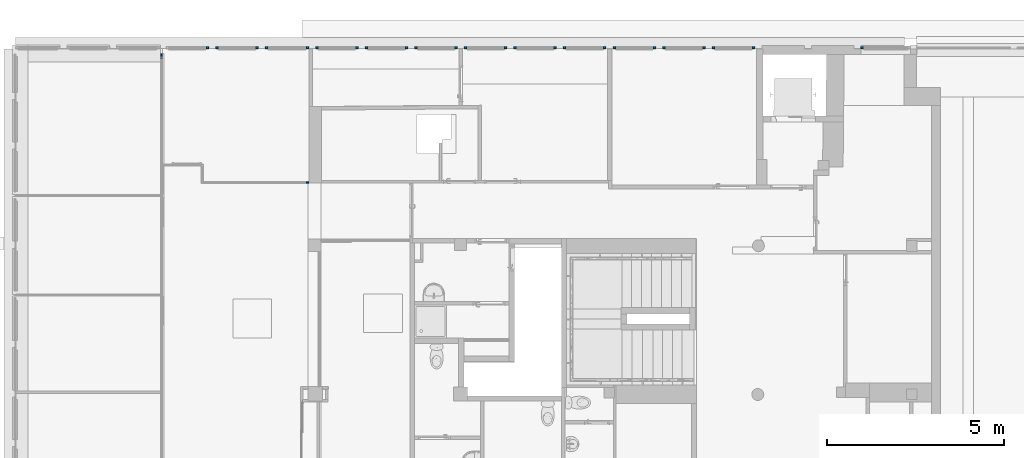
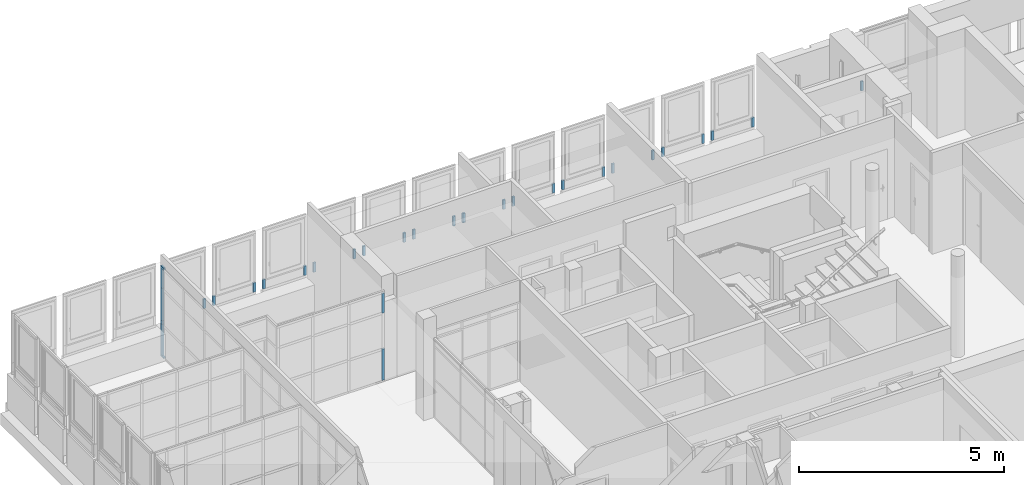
# One storey, part 23 of 97: 32 members, 15 elements without a shape of their own.
"""IFC4 building model written with IfcOpenShell, lengths in metres."""

from ifc_helpers import new_model, entity, si_unit, converted_unit, derived_unit, direction, frame, origin, place, context, subcontext, project, spatial, indexed_curve, outline, extrude, source, transform, mapped, material, type_object, type_shapes, element, aggregate, save


model = new_model("IFC4")

# Units and contexts
model_context = context("Model", 3, precision=1e-05, world=origin(), true_north=direction((6.12303176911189e-17, 1.0)))
body_context = subcontext(model_context, "Body", "Model", "MODEL_VIEW")
ifc_project = project(units=[si_unit("LENGTHUNIT", "METRE"), si_unit("AREAUNIT", "SQUARE_METRE"), si_unit("VOLUMEUNIT", "CUBIC_METRE"), converted_unit("PLANEANGLEUNIT", "DEGREE", entity("IfcRatioMeasure", 0.0174532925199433), si_unit("PLANEANGLEUNIT", "RADIAN"), dimensions=[0, 0, 0, 0, 0, 0, 0]), si_unit("MASSUNIT", "GRAM", prefix="KILO"), derived_unit("MASSDENSITYUNIT", [(si_unit("MASSUNIT", "GRAM", prefix="KILO"), 1), (si_unit("LENGTHUNIT", "METRE"), -3)]), derived_unit("MOMENTOFINERTIAUNIT", [(si_unit("LENGTHUNIT", "METRE"), 4)]), si_unit("TIMEUNIT", "SECOND"), si_unit("FREQUENCYUNIT", "HERTZ"), si_unit("THERMODYNAMICTEMPERATUREUNIT", "DEGREE_CELSIUS"), derived_unit("THERMALTRANSMITTANCEUNIT", [(si_unit("MASSUNIT", "GRAM", prefix="KILO"), 1), (si_unit("THERMODYNAMICTEMPERATUREUNIT", "KELVIN"), -1), (si_unit("TIMEUNIT", "SECOND"), -3)]), derived_unit("VOLUMETRICFLOWRATEUNIT", [(si_unit("LENGTHUNIT", "METRE"), 3), (si_unit("TIMEUNIT", "SECOND"), -1)]), si_unit("ELECTRICCURRENTUNIT", "AMPERE"), si_unit("ELECTRICVOLTAGEUNIT", "VOLT"), si_unit("POWERUNIT", "WATT"), si_unit("FORCEUNIT", "NEWTON", prefix="KILO"), si_unit("ILLUMINANCEUNIT", "LUX"), si_unit("LUMINOUSFLUXUNIT", "LUMEN"), si_unit("LUMINOUSINTENSITYUNIT", "CANDELA"), derived_unit("USERDEFINED", [(si_unit("MASSUNIT", "GRAM", prefix="KILO"), -1), (si_unit("LENGTHUNIT", "METRE"), -2), (si_unit("TIMEUNIT", "SECOND"), 3), (si_unit("LUMINOUSFLUXUNIT", "LUMEN"), 1)]), derived_unit("LINEARVELOCITYUNIT", [(si_unit("LENGTHUNIT", "METRE"), 1), (si_unit("TIMEUNIT", "SECOND"), -1)]), si_unit("PRESSUREUNIT", "PASCAL"), derived_unit("USERDEFINED", [(si_unit("LENGTHUNIT", "METRE"), -2), (si_unit("MASSUNIT", "GRAM", prefix="KILO"), 1), (si_unit("TIMEUNIT", "SECOND"), -2)]), derived_unit("LINEARFORCEUNIT", [(si_unit("MASSUNIT", "GRAM", prefix="KILO"), 1), (si_unit("LENGTHUNIT", "METRE"), 1), (si_unit("TIMEUNIT", "SECOND"), -2), (si_unit("LENGTHUNIT", "METRE"), -1)]), derived_unit("PLANARFORCEUNIT", [(si_unit("MASSUNIT", "GRAM", prefix="KILO"), 1), (si_unit("LENGTHUNIT", "METRE"), 1), (si_unit("TIMEUNIT", "SECOND"), -2), (si_unit("LENGTHUNIT", "METRE"), -2)])], contexts=[model_context])

# Site, building, storey
site_placement = place(None, origin())
site = spatial("IfcSite", under=ifc_project, at=site_placement, Name="Default", CompositionType="ELEMENT")
building_placement = place(site_placement, origin())
building = spatial("IfcBuilding", under=site, at=building_placement, Name="HOTEL CONSULAIRE BOULOGNE SUR MER", CompositionType="ELEMENT")
storey_placement = place(building_placement, frame((0.0, 0.0, 3.62152697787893)))
storey = spatial("IfcBuildingStorey", under=building, at=storey_placement, Name="Niveau 1", CompositionType="ELEMENT", Elevation=3.62152697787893)

# Curtain wall, member
curtain_wall_type = type_object("IfcCurtainWallType", Name="Mur-rideau:Simple panneau", PredefinedType="NOTDEFINED")
curtain_wall_1_placement = place(storey_placement, frame((0.0, 0.0, -3.62152697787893)))
curtain_wall_1 = element("IfcCurtainWall", 1, at=curtain_wall_1_placement, inside=storey, type_object=curtain_wall_type, Name="Mur-rideau:Simple panneau", ObjectType="Mur-rideau:Simple panneau", PredefinedType="NOTDEFINED")
ifc_material_1 = material(Name="PVC - Blanc", Category="Plastique")
member_type_1 = type_object("IfcMemberType", Name="Meneau rectangulaire:50 x 35", PredefinedType="MULLION", material=ifc_material_1)
shared_shape_1 = source(origin(), body_context, "Body", "SweptSolid", [
    extrude(outline(indexed_curve([(-0.025, -0.035), (0.025, -0.035), (0.025, 0.035), (-0.025, 0.035), (-0.025, -0.035)], self_intersect=False)), frame((-0.035, -0.025, -0.278), z_axis=(0.0, 0.0, 1.0), x_axis=(0.0, -1.0, 0.0)), (0.0, 0.0, 1.0), 0.278),
])
type_shapes(member_type_1, [shared_shape_1])
member_1_placement = place(storey_placement, frame((-8.34141997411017, -10.0746323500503, 0.861612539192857), z_axis=(0.0, 0.0, -1.0), x_axis=(1.0, 0.0, 0.0)))
member_1 = element("IfcMember", 2, at=member_1_placement, type_object=member_type_1, material=ifc_material_1, Name="Meneau rectangulaire:50 x 35", ObjectType="Meneau rectangulaire:50 x 35", PredefinedType="MULLION", context=body_context, shape_type="MappedRepresentation", body=[
    mapped(shared_shape_1, transform((0.0, 0.0, 0.0), scale=1.0)),
])
aggregate(curtain_wall_1, [member_1])

curtain_wall_2_placement = place(storey_placement, frame((0.0, 0.0, -3.62152697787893)))
curtain_wall_2 = element("IfcCurtainWall", 3, at=curtain_wall_2_placement, inside=storey, type_object=curtain_wall_type, Name="Mur-rideau:Simple panneau", ObjectType="Mur-rideau:Simple panneau", PredefinedType="NOTDEFINED")
member_2_placement = place(storey_placement, frame((-6.94141997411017, -10.0746323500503, 0.861612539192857), z_axis=(0.0, 0.0, -1.0), x_axis=(1.0, 0.0, 0.0)))
member_2 = element("IfcMember", 4, at=member_2_placement, type_object=member_type_1, material=ifc_material_1, Name="Meneau rectangulaire:50 x 35", ObjectType="Meneau rectangulaire:50 x 35", PredefinedType="MULLION", context=body_context, shape_type="MappedRepresentation", body=[
    mapped(shared_shape_1, transform((0.0, 0.0, 0.0), scale=1.0)),
])

curtain_wall_3_placement = place(storey_placement, frame((0.0, 0.0, -3.62152697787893)))
curtain_wall_3 = element("IfcCurtainWall", 5, at=curtain_wall_3_placement, inside=storey, type_object=curtain_wall_type, Name="Mur-rideau:Simple panneau", ObjectType="Mur-rideau:Simple panneau", PredefinedType="NOTDEFINED")
member_3_placement = place(storey_placement, frame((-5.51977317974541, -10.0746323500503, 0.861612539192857), z_axis=(0.0, 0.0, -1.0), x_axis=(1.0, 0.0, 0.0)))
member_3 = element("IfcMember", 6, at=member_3_placement, type_object=member_type_1, material=ifc_material_1, Name="Meneau rectangulaire:50 x 35", ObjectType="Meneau rectangulaire:50 x 35", PredefinedType="MULLION", context=body_context, shape_type="MappedRepresentation", body=[
    mapped(shared_shape_1, transform((0.0, 0.0, 0.0), scale=1.0)),
])

curtain_wall_4_placement = place(storey_placement, frame((0.0, 0.0, -3.62152697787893)))
curtain_wall_4 = element("IfcCurtainWall", 7, at=curtain_wall_4_placement, inside=storey, type_object=curtain_wall_type, Name="Mur-rideau:Simple panneau", ObjectType="Mur-rideau:Simple panneau", PredefinedType="NOTDEFINED")
member_4_placement = place(storey_placement, frame((-4.11977317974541, -10.0746323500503, 0.861612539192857), z_axis=(0.0, 0.0, -1.0), x_axis=(1.0, 0.0, 0.0)))
member_4 = element("IfcMember", 8, at=member_4_placement, type_object=member_type_1, material=ifc_material_1, Name="Meneau rectangulaire:50 x 35", ObjectType="Meneau rectangulaire:50 x 35", PredefinedType="MULLION", context=body_context, shape_type="MappedRepresentation", body=[
    mapped(shared_shape_1, transform((0.0, 0.0, 0.0), scale=1.0)),
])

curtain_wall_5_placement = place(storey_placement, frame((0.0, 0.0, -3.62152697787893)))
curtain_wall_5 = element("IfcCurtainWall", 9, at=curtain_wall_5_placement, inside=storey, type_object=curtain_wall_type, Name="Mur-rideau:Simple panneau", ObjectType="Mur-rideau:Simple panneau", PredefinedType="NOTDEFINED")
member_5_placement = place(storey_placement, frame((-2.71977317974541, -10.0746323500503, 0.861612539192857), z_axis=(0.0, 0.0, -1.0), x_axis=(1.0, 0.0, 0.0)))
member_5 = element("IfcMember", 10, at=member_5_placement, type_object=member_type_1, material=ifc_material_1, Name="Meneau rectangulaire:50 x 35", ObjectType="Meneau rectangulaire:50 x 35", PredefinedType="MULLION", context=body_context, shape_type="MappedRepresentation", body=[
    mapped(shared_shape_1, transform((0.0, 0.0, 0.0), scale=1.0)),
])

curtain_wall_6_placement = place(storey_placement, frame((0.0, 0.0, -3.62152697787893)))
curtain_wall_6 = element("IfcCurtainWall", 11, at=curtain_wall_6_placement, inside=storey, type_object=curtain_wall_type, Name="Mur-rideau:Simple panneau", ObjectType="Mur-rideau:Simple panneau", PredefinedType="NOTDEFINED")
member_6_placement = place(storey_placement, frame((-1.31977317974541, -10.0746323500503, 0.861612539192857), z_axis=(0.0, 0.0, -1.0), x_axis=(1.0, 0.0, 0.0)))
member_6 = element("IfcMember", 12, at=member_6_placement, type_object=member_type_1, material=ifc_material_1, Name="Meneau rectangulaire:50 x 35", ObjectType="Meneau rectangulaire:50 x 35", PredefinedType="MULLION", context=body_context, shape_type="MappedRepresentation", body=[
    mapped(shared_shape_1, transform((0.0, 0.0, 0.0), scale=1.0)),
])

curtain_wall_7_placement = place(storey_placement, frame((0.0, 0.0, -3.62152697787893)))
curtain_wall_7 = element("IfcCurtainWall", 13, at=curtain_wall_7_placement, inside=storey, type_object=curtain_wall_type, Name="Mur-rideau:Simple panneau", ObjectType="Mur-rideau:Simple panneau", PredefinedType="NOTDEFINED")
member_7_placement = place(storey_placement, frame((0.0775783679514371, -10.0746323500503, 0.861612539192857), z_axis=(0.0, 0.0, -1.0), x_axis=(1.0, 0.0, 0.0)))
member_7 = element("IfcMember", 14, at=member_7_placement, type_object=member_type_1, material=ifc_material_1, Name="Meneau rectangulaire:50 x 35", ObjectType="Meneau rectangulaire:50 x 35", PredefinedType="MULLION", context=body_context, shape_type="MappedRepresentation", body=[
    mapped(shared_shape_1, transform((0.0, 0.0, 0.0), scale=1.0)),
])

curtain_wall_8_placement = place(storey_placement, frame((0.0, 0.0, -3.62152697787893)))
curtain_wall_8 = element("IfcCurtainWall", 15, at=curtain_wall_8_placement, inside=storey, type_object=curtain_wall_type, Name="Mur-rideau:Simple panneau", ObjectType="Mur-rideau:Simple panneau", PredefinedType="NOTDEFINED")
member_8_placement = place(storey_placement, frame((1.47757836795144, -10.0746323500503, 0.861612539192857), z_axis=(0.0, 0.0, -1.0), x_axis=(1.0, 0.0, 0.0)))
member_8 = element("IfcMember", 16, at=member_8_placement, type_object=member_type_1, material=ifc_material_1, Name="Meneau rectangulaire:50 x 35", ObjectType="Meneau rectangulaire:50 x 35", PredefinedType="MULLION", context=body_context, shape_type="MappedRepresentation", body=[
    mapped(shared_shape_1, transform((0.0, 0.0, 0.0), scale=1.0)),
])

curtain_wall_9_placement = place(storey_placement, frame((0.0, 0.0, -3.62152697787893)))
curtain_wall_9 = element("IfcCurtainWall", 17, at=curtain_wall_9_placement, inside=storey, type_object=curtain_wall_type, Name="Mur-rideau:Simple panneau", ObjectType="Mur-rideau:Simple panneau", PredefinedType="NOTDEFINED")
member_9_placement = place(storey_placement, frame((2.87757836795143, -10.0746323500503, 0.861612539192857), z_axis=(0.0, 0.0, -1.0), x_axis=(1.0, 0.0, 0.0)))
member_9 = element("IfcMember", 18, at=member_9_placement, type_object=member_type_1, material=ifc_material_1, Name="Meneau rectangulaire:50 x 35", ObjectType="Meneau rectangulaire:50 x 35", PredefinedType="MULLION", context=body_context, shape_type="MappedRepresentation", body=[
    mapped(shared_shape_1, transform((0.0, 0.0, 0.0), scale=1.0)),
])

curtain_wall_10_placement = place(storey_placement, frame((0.0, 0.0, -3.62152697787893)))
curtain_wall_10 = element("IfcCurtainWall", 19, at=curtain_wall_10_placement, inside=storey, type_object=curtain_wall_type, Name="Mur-rideau:Simple panneau", ObjectType="Mur-rideau:Simple panneau", PredefinedType="NOTDEFINED")
member_10_placement = place(storey_placement, frame((4.27857836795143, -10.0746323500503, 0.861612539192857), z_axis=(0.0, 0.0, -1.0), x_axis=(1.0, 0.0, 0.0)))
member_10 = element("IfcMember", 20, at=member_10_placement, type_object=member_type_1, material=ifc_material_1, Name="Meneau rectangulaire:50 x 35", ObjectType="Meneau rectangulaire:50 x 35", PredefinedType="MULLION", context=body_context, shape_type="MappedRepresentation", body=[
    mapped(shared_shape_1, transform((0.0, 0.0, 0.0), scale=1.0)),
])

curtain_wall_11_placement = place(storey_placement, frame((0.0, 0.0, -3.62152697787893)))
curtain_wall_11 = element("IfcCurtainWall", 21, at=curtain_wall_11_placement, inside=storey, type_object=curtain_wall_type, Name="Mur-rideau:Simple panneau", ObjectType="Mur-rideau:Simple panneau", PredefinedType="NOTDEFINED")
member_11_placement = place(storey_placement, frame((5.67757836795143, -10.0746323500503, 0.861612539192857), z_axis=(0.0, 0.0, -1.0), x_axis=(1.0, 0.0, 0.0)))
member_11 = element("IfcMember", 22, at=member_11_placement, type_object=member_type_1, material=ifc_material_1, Name="Meneau rectangulaire:50 x 35", ObjectType="Meneau rectangulaire:50 x 35", PredefinedType="MULLION", context=body_context, shape_type="MappedRepresentation", body=[
    mapped(shared_shape_1, transform((0.0, 0.0, 0.0), scale=1.0)),
])

curtain_wall_12_placement = place(storey_placement, frame((0.0, 0.0, -3.62152697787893)))
curtain_wall_12 = element("IfcCurtainWall", 23, at=curtain_wall_12_placement, inside=storey, type_object=curtain_wall_type, Name="Mur-rideau:Simple panneau", ObjectType="Mur-rideau:Simple panneau", PredefinedType="NOTDEFINED")
member_12_placement = place(storey_placement, frame((7.07757836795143, -10.0746323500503, 0.861612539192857), z_axis=(0.0, 0.0, -1.0), x_axis=(1.0, 0.0, 0.0)))
member_12 = element("IfcMember", 24, at=member_12_placement, type_object=member_type_1, material=ifc_material_1, Name="Meneau rectangulaire:50 x 35", ObjectType="Meneau rectangulaire:50 x 35", PredefinedType="MULLION", context=body_context, shape_type="MappedRepresentation", body=[
    mapped(shared_shape_1, transform((0.0, 0.0, 0.0), scale=1.0)),
])

# Member
member_type_2 = type_object("IfcMemberType", Name="Meneau rectangulaire:50 x 35", PredefinedType="MULLION", material=ifc_material_1)
shared_shape_2 = source(origin(), body_context, "Body", "SweptSolid", [
    extrude(outline(indexed_curve([(-0.025, -0.035), (0.025, -0.035), (0.025, 0.035), (-0.025, 0.035), (-0.025, -0.035)], self_intersect=False)), frame((-0.035, -0.025, -0.278), z_axis=(0.0, 0.0, 1.0), x_axis=(0.0, -1.0, 0.0)), (0.0, 0.0, 1.0), 0.278),
])
type_shapes(member_type_2, [shared_shape_2])
member_13_placement = place(storey_placement, frame((-8.14141997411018, -10.0746323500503, 1.13961253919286), z_axis=(0.0, 0.0, 1.0), x_axis=(-1.0, 0.0, 0.0)))
member_13 = element("IfcMember", 25, at=member_13_placement, type_object=member_type_2, material=ifc_material_1, Name="Meneau rectangulaire:50 x 35", ObjectType="Meneau rectangulaire:50 x 35", PredefinedType="MULLION", context=body_context, shape_type="MappedRepresentation", body=[
    mapped(shared_shape_2, transform((0.0, 0.0, 0.0), scale=1.0)),
])

aggregate(curtain_wall_2, [member_2, member_13])

member_14_placement = place(storey_placement, frame((-6.74141997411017, -10.0746323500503, 1.13961253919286), z_axis=(0.0, 0.0, 1.0), x_axis=(-1.0, 0.0, 0.0)))
member_14 = element("IfcMember", 26, at=member_14_placement, type_object=member_type_2, material=ifc_material_1, Name="Meneau rectangulaire:50 x 35", ObjectType="Meneau rectangulaire:50 x 35", PredefinedType="MULLION", context=body_context, shape_type="MappedRepresentation", body=[
    mapped(shared_shape_2, transform((0.0, 0.0, 0.0), scale=1.0)),
])

aggregate(curtain_wall_3, [member_3, member_14])

member_15_placement = place(storey_placement, frame((-5.31977317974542, -10.0746323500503, 1.13961253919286), z_axis=(0.0, 0.0, 1.0), x_axis=(-1.0, 0.0, 0.0)))
member_15 = element("IfcMember", 27, at=member_15_placement, type_object=member_type_2, material=ifc_material_1, Name="Meneau rectangulaire:50 x 35", ObjectType="Meneau rectangulaire:50 x 35", PredefinedType="MULLION", context=body_context, shape_type="MappedRepresentation", body=[
    mapped(shared_shape_2, transform((0.0, 0.0, 0.0), scale=1.0)),
])

aggregate(curtain_wall_4, [member_4, member_15])

member_16_placement = place(storey_placement, frame((-3.91977317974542, -10.0746323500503, 1.13961253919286), z_axis=(0.0, 0.0, 1.0), x_axis=(-1.0, 0.0, 0.0)))
member_16 = element("IfcMember", 28, at=member_16_placement, type_object=member_type_2, material=ifc_material_1, Name="Meneau rectangulaire:50 x 35", ObjectType="Meneau rectangulaire:50 x 35", PredefinedType="MULLION", context=body_context, shape_type="MappedRepresentation", body=[
    mapped(shared_shape_2, transform((0.0, 0.0, 0.0), scale=1.0)),
])

aggregate(curtain_wall_5, [member_5, member_16])

member_17_placement = place(storey_placement, frame((-2.51977317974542, -10.0746323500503, 1.13961253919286), z_axis=(0.0, 0.0, 1.0), x_axis=(-1.0, 0.0, 0.0)))
member_17 = element("IfcMember", 29, at=member_17_placement, type_object=member_type_2, material=ifc_material_1, Name="Meneau rectangulaire:50 x 35", ObjectType="Meneau rectangulaire:50 x 35", PredefinedType="MULLION", context=body_context, shape_type="MappedRepresentation", body=[
    mapped(shared_shape_2, transform((0.0, 0.0, 0.0), scale=1.0)),
])

aggregate(curtain_wall_6, [member_6, member_17])

member_18_placement = place(storey_placement, frame((-1.11977317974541, -10.0746323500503, 1.13961253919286), z_axis=(0.0, 0.0, 1.0), x_axis=(-1.0, 0.0, 0.0)))
member_18 = element("IfcMember", 30, at=member_18_placement, type_object=member_type_2, material=ifc_material_1, Name="Meneau rectangulaire:50 x 35", ObjectType="Meneau rectangulaire:50 x 35", PredefinedType="MULLION", context=body_context, shape_type="MappedRepresentation", body=[
    mapped(shared_shape_2, transform((0.0, 0.0, 0.0), scale=1.0)),
])

aggregate(curtain_wall_7, [member_7, member_18])

member_19_placement = place(storey_placement, frame((0.277578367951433, -10.0746323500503, 1.13961253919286), z_axis=(0.0, 0.0, 1.0), x_axis=(-1.0, 0.0, 0.0)))
member_19 = element("IfcMember", 31, at=member_19_placement, type_object=member_type_2, material=ifc_material_1, Name="Meneau rectangulaire:50 x 35", ObjectType="Meneau rectangulaire:50 x 35", PredefinedType="MULLION", context=body_context, shape_type="MappedRepresentation", body=[
    mapped(shared_shape_2, transform((0.0, 0.0, 0.0), scale=1.0)),
])

aggregate(curtain_wall_8, [member_8, member_19])

member_20_placement = place(storey_placement, frame((1.67757836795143, -10.0746323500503, 1.13961253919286), z_axis=(0.0, 0.0, 1.0), x_axis=(-1.0, 0.0, 0.0)))
member_20 = element("IfcMember", 32, at=member_20_placement, type_object=member_type_2, material=ifc_material_1, Name="Meneau rectangulaire:50 x 35", ObjectType="Meneau rectangulaire:50 x 35", PredefinedType="MULLION", context=body_context, shape_type="MappedRepresentation", body=[
    mapped(shared_shape_2, transform((0.0, 0.0, 0.0), scale=1.0)),
])

aggregate(curtain_wall_9, [member_9, member_20])

member_21_placement = place(storey_placement, frame((3.07857836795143, -10.0746323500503, 1.13961253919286), z_axis=(0.0, 0.0, 1.0), x_axis=(-1.0, 0.0, 0.0)))
member_21 = element("IfcMember", 33, at=member_21_placement, type_object=member_type_2, material=ifc_material_1, Name="Meneau rectangulaire:50 x 35", ObjectType="Meneau rectangulaire:50 x 35", PredefinedType="MULLION", context=body_context, shape_type="MappedRepresentation", body=[
    mapped(shared_shape_2, transform((0.0, 0.0, 0.0), scale=1.0)),
])

aggregate(curtain_wall_10, [member_10, member_21])

member_22_placement = place(storey_placement, frame((4.47757836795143, -10.0746323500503, 1.13961253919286), z_axis=(0.0, 0.0, 1.0), x_axis=(-1.0, 0.0, 0.0)))
member_22 = element("IfcMember", 34, at=member_22_placement, type_object=member_type_2, material=ifc_material_1, Name="Meneau rectangulaire:50 x 35", ObjectType="Meneau rectangulaire:50 x 35", PredefinedType="MULLION", context=body_context, shape_type="MappedRepresentation", body=[
    mapped(shared_shape_2, transform((0.0, 0.0, 0.0), scale=1.0)),
])

aggregate(curtain_wall_11, [member_11, member_22])

member_23_placement = place(storey_placement, frame((5.87757836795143, -10.0746323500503, 1.13961253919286), z_axis=(0.0, 0.0, 1.0), x_axis=(-1.0, 0.0, 0.0)))
member_23 = element("IfcMember", 35, at=member_23_placement, type_object=member_type_2, material=ifc_material_1, Name="Meneau rectangulaire:50 x 35", ObjectType="Meneau rectangulaire:50 x 35", PredefinedType="MULLION", context=body_context, shape_type="MappedRepresentation", body=[
    mapped(shared_shape_2, transform((0.0, 0.0, 0.0), scale=1.0)),
])

aggregate(curtain_wall_12, [member_12, member_23])

# Curtain wall, member
curtain_wall_13_placement = place(storey_placement, frame((0.0, 0.0, -3.62152697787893)))
curtain_wall_13 = element("IfcCurtainWall", 36, at=curtain_wall_13_placement, inside=storey, type_object=curtain_wall_type, Name="Mur-rideau:Simple panneau", ObjectType="Mur-rideau:Simple panneau", PredefinedType="NOTDEFINED")
member_24_placement = place(storey_placement, frame((10.0775783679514, -10.0746323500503, 1.13961253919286), z_axis=(0.0, 0.0, 1.0), x_axis=(-1.0, 0.0, 0.0)))
member_24 = element("IfcMember", 37, at=member_24_placement, type_object=member_type_2, material=ifc_material_1, Name="Meneau rectangulaire:50 x 35", ObjectType="Meneau rectangulaire:50 x 35", PredefinedType="MULLION", context=body_context, shape_type="MappedRepresentation", body=[
    mapped(shared_shape_2, transform((0.0, 0.0, 0.0), scale=1.0)),
])
aggregate(curtain_wall_13, [member_24])

curtain_wall_14_placement = place(storey_placement, frame((0.0, 0.0, -3.62152697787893)))
curtain_wall_14 = element("IfcCurtainWall", 38, at=curtain_wall_14_placement, inside=storey, type_object=curtain_wall_type, Name="Mur-rideau:Simple panneau", ObjectType="Mur-rideau:Simple panneau", PredefinedType="NOTDEFINED")
ifc_material_2 = material(Name="PVC, souple", Category="Plastique")
member_type_3 = type_object("IfcMemberType", Name="Meneau rectangulaire:50 x 35 pvc gris", PredefinedType="MULLION", material=ifc_material_2)
shared_shape_3 = source(origin(), body_context, "Body", "SweptSolid", [
    extrude(outline(indexed_curve([(-0.025, -0.035), (0.025, -0.035), (0.025, 0.035), (-0.025, 0.035), (-0.025, -0.035)], self_intersect=False)), frame((-0.035, -0.025, -0.581), z_axis=(0.0, 0.0, 1.0), x_axis=(0.0, -1.0, 0.0)), (0.0, 0.0, 1.0), 0.581),
])
type_shapes(member_type_3, [shared_shape_3])
member_25_placement = place(storey_placement, frame((-5.5097731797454, -13.8259141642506, 2.62696046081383)))
member_25 = element("IfcMember", 39, at=member_25_placement, type_object=member_type_3, material=ifc_material_2, Name="Meneau rectangulaire:50 x 35 pvc gris", ObjectType="Meneau rectangulaire:50 x 35 pvc gris", PredefinedType="MULLION", context=body_context, shape_type="MappedRepresentation", body=[
    mapped(shared_shape_3, transform((0.0, 0.0, 0.0), scale=1.0)),
])

# Curtain wall, members
curtain_wall_15_placement = place(storey_placement, frame((0.0, 0.0, -3.62152697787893)))
curtain_wall_15 = element("IfcCurtainWall", 40, at=curtain_wall_15_placement, inside=storey, type_object=curtain_wall_type, Name="Mur-rideau:Simple panneau", ObjectType="Mur-rideau:Simple panneau", PredefinedType="NOTDEFINED")
member_type_4 = type_object("IfcMemberType", Name="Meneau rectangulaire:50 x 35 pvc gris", PredefinedType="MULLION", material=ifc_material_2)
shared_shape_4 = source(origin(), body_context, "Body", "SweptSolid", [
    extrude(outline(indexed_curve([(-0.025, -0.035), (0.025, -0.035), (0.025, 0.035), (-0.025, 0.035), (-0.025, -0.035)], self_intersect=False)), frame((-0.035, -0.025, -0.105), z_axis=(0.0, 0.0, 1.0), x_axis=(0.0, -1.0, 0.0)), (0.0, 0.0, 1.0), 0.105),
])
type_shapes(member_type_4, [shared_shape_4])
member_26_placement = place(storey_placement, frame((-9.64962464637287, -10.2153241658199, 0.976960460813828), z_axis=(0.0, 0.0, -1.0), x_axis=(0.0, 1.0, 0.0)))
member_26 = element("IfcMember", 41, at=member_26_placement, type_object=member_type_4, material=ifc_material_2, Name="Meneau rectangulaire:50 x 35 pvc gris", ObjectType="Meneau rectangulaire:50 x 35 pvc gris", PredefinedType="MULLION", context=body_context, shape_type="MappedRepresentation", body=[
    mapped(shared_shape_4, transform((0.0, 0.0, 0.0), scale=1.0)),
])
member_type_5 = type_object("IfcMemberType", Name="Meneau rectangulaire:50 x 35 pvc gris", PredefinedType="MULLION", material=ifc_material_2)
shared_shape_5 = source(origin(), body_context, "Body", "SweptSolid", [
    extrude(outline(indexed_curve([(-0.025, -0.035), (0.025, -0.035), (0.025, 0.035), (-0.025, 0.035), (-0.025, -0.035)], self_intersect=False)), frame((-0.035, -0.025, -0.964), z_axis=(0.0, 0.0, 1.0), x_axis=(0.0, -1.0, 0.0)), (0.0, 0.0, 1.0), 0.964),
])
type_shapes(member_type_5, [shared_shape_5])
member_27_placement = place(storey_placement, frame((-9.64962464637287, -10.2153241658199, 1.08196046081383), z_axis=(0.0, 0.0, -1.0), x_axis=(0.0, 1.0, 0.0)))
member_27 = element("IfcMember", 42, at=member_27_placement, type_object=member_type_5, material=ifc_material_2, Name="Meneau rectangulaire:50 x 35 pvc gris", ObjectType="Meneau rectangulaire:50 x 35 pvc gris", PredefinedType="MULLION", context=body_context, shape_type="MappedRepresentation", body=[
    mapped(shared_shape_5, transform((0.0, 0.0, 0.0), scale=1.0)),
])
member_type_6 = type_object("IfcMemberType", Name="Meneau rectangulaire:50 x 35 pvc gris", PredefinedType="MULLION", material=ifc_material_2)
shared_shape_6 = source(origin(), body_context, "Body", "SweptSolid", [
    extrude(outline(indexed_curve([(-0.025, -0.035), (0.025, -0.035), (0.025, 0.035), (-0.025, 0.035), (-0.025, -0.035)], self_intersect=False)), frame((-0.035, -0.025, -0.581), z_axis=(0.0, 0.0, 1.0), x_axis=(0.0, -1.0, 0.0)), (0.0, 0.0, 1.0), 0.581),
])
type_shapes(member_type_6, [shared_shape_6])
member_28_placement = place(storey_placement, frame((-9.64962464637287, -10.2153241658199, 2.04596046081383), z_axis=(0.0, 0.0, -1.0), x_axis=(0.0, 1.0, 0.0)))
member_28 = element("IfcMember", 43, at=member_28_placement, type_object=member_type_6, material=ifc_material_2, Name="Meneau rectangulaire:50 x 35 pvc gris", ObjectType="Meneau rectangulaire:50 x 35 pvc gris", PredefinedType="MULLION", context=body_context, shape_type="MappedRepresentation", body=[
    mapped(shared_shape_6, transform((0.0, 0.0, 0.0), scale=1.0)),
])
member_type_7 = type_object("IfcMemberType", Name="Meneau rectangulaire:50 x 35 pvc gris", PredefinedType="MULLION", material=ifc_material_2)
shared_shape_7 = source(origin(), body_context, "Body", "SweptSolid", [
    extrude(outline(indexed_curve([(-0.025, -0.035), (0.025, -0.035), (0.025, 0.035), (-0.025, 0.035), (-0.025, -0.035)], self_intersect=False)), frame((-0.035, -0.025, -0.926960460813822), z_axis=(0.0, 0.0, 1.0), x_axis=(0.0, -1.0, 0.0)), (0.0, 0.0, 1.0), 0.926960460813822),
])
type_shapes(member_type_7, [shared_shape_7])
member_29_placement = place(storey_placement, frame((-9.64962464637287, -10.2153241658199, 0.050000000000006), z_axis=(0.0, 0.0, -1.0), x_axis=(0.0, 1.0, 0.0)))
member_29 = element("IfcMember", 44, at=member_29_placement, type_object=member_type_7, material=ifc_material_2, Name="Meneau rectangulaire:50 x 35 pvc gris", ObjectType="Meneau rectangulaire:50 x 35 pvc gris", PredefinedType="MULLION", context=body_context, shape_type="MappedRepresentation", body=[
    mapped(shared_shape_7, transform((0.0, 0.0, 0.0), scale=1.0)),
])
member_type_8 = type_object("IfcMemberType", Name="Meneau rectangulaire:50 x 35 pvc gris", PredefinedType="MULLION", material=ifc_material_2)
shared_shape_8 = source(origin(), body_context, "Body", "SweptSolid", [
    extrude(outline(indexed_curve([(-0.025, -0.035), (0.025, -0.035), (0.025, 0.035), (-0.025, 0.035), (-0.025, -0.035)], self_intersect=False)), frame((-0.035, -0.025, -0.142308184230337), z_axis=(0.0, 0.0, 1.0), x_axis=(0.0, -1.0, 0.0)), (0.0, 0.0, 1.0), 0.142308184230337),
])
type_shapes(member_type_8, [shared_shape_8])
member_30_placement = place(storey_placement, frame((-9.64962464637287, -10.2153241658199, 2.69696046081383), z_axis=(0.0, 1.0, 0.0), x_axis=(0.0, 0.0, 1.0)))
member_30 = element("IfcMember", 45, at=member_30_placement, type_object=member_type_8, material=ifc_material_2, Name="Meneau rectangulaire:50 x 35 pvc gris", ObjectType="Meneau rectangulaire:50 x 35 pvc gris", PredefinedType="MULLION", context=body_context, shape_type="MappedRepresentation", body=[
    mapped(shared_shape_8, transform((0.0, 0.0, 0.0), scale=1.0)),
])
member_type_9 = type_object("IfcMemberType", Name="Meneau rectangulaire:50 x 25mm pvc gris", PredefinedType="MULLION", material=ifc_material_2)
shared_shape_9 = source(origin(), body_context, "Body", "SweptSolid", [
    extrude(outline(indexed_curve([(-0.025, -0.025), (0.025, -0.025), (0.025, 0.025), (-0.025, 0.025), (-0.025, -0.025)], self_intersect=False)), frame((-0.025, -0.025, -0.142308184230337), z_axis=(0.0, 0.0, 1.0), x_axis=(0.0, -1.0, 0.0)), (0.0, 0.0, 1.0), 0.142308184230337),
])
type_shapes(member_type_9, [shared_shape_9])
member_31_placement = place(storey_placement, frame((-9.64962464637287, -10.3576323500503, 0.0), z_axis=(0.0, -1.0, 0.0), x_axis=(0.0, 0.0, -1.0)))
member_31 = element("IfcMember", 46, at=member_31_placement, type_object=member_type_9, material=ifc_material_2, Name="Meneau rectangulaire:50 x 25mm pvc gris", ObjectType="Meneau rectangulaire:50 x 25mm pvc gris", PredefinedType="MULLION", context=body_context, shape_type="MappedRepresentation", body=[
    mapped(shared_shape_9, transform((0.0, 0.0, 0.0), scale=1.0)),
])
aggregate(curtain_wall_15, [member_26, member_27, member_28, member_29, member_30, member_31])

# Member
member_type_10 = type_object("IfcMemberType", Name="Meneau rectangulaire:50 x 35 pvc gris", PredefinedType="MULLION", material=ifc_material_2)
shared_shape_10 = source(origin(), body_context, "Body", "SweptSolid", [
    extrude(outline(indexed_curve([(-0.025, -0.035), (0.025, -0.035), (0.025, 0.035), (-0.025, 0.035), (-0.025, -0.035)], self_intersect=False)), frame((-0.035, -0.025, -0.927), z_axis=(0.0, 0.0, 1.0), x_axis=(0.0, -1.0, 0.0)), (0.0, 0.0, 1.0), 0.927),
])
type_shapes(member_type_10, [shared_shape_10])
member_32_placement = place(storey_placement, frame((-5.5097731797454, -13.8259141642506, 0.977000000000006)))
member_32 = element("IfcMember", 47, at=member_32_placement, type_object=member_type_10, material=ifc_material_2, Name="Meneau rectangulaire:50 x 35 pvc gris", ObjectType="Meneau rectangulaire:50 x 35 pvc gris", PredefinedType="MULLION", context=body_context, shape_type="MappedRepresentation", body=[
    mapped(shared_shape_10, transform((0.0, 0.0, 0.0), scale=1.0)),
])

aggregate(curtain_wall_14, [member_32, member_25])

save(model, "model.ifc")
